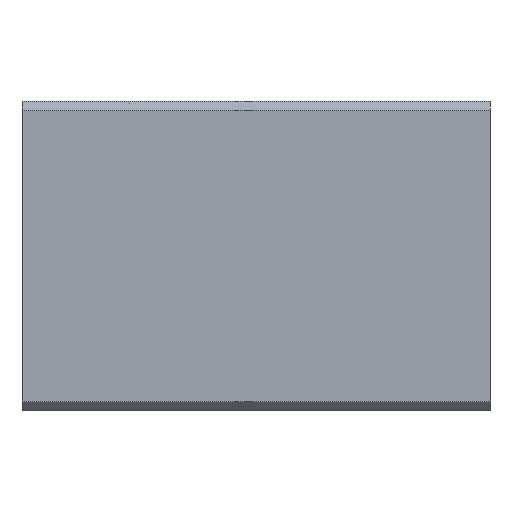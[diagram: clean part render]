
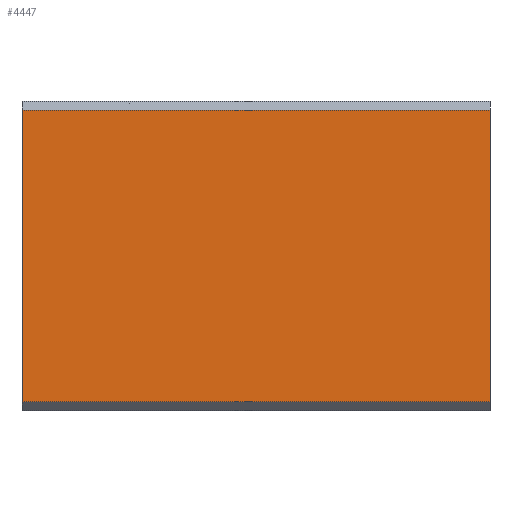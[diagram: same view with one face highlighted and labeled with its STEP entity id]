
A CAD part, front view. The second image highlights one B-rep face of the part: STEP entity #4447.
In plain terms, the highlighted planar face has unit normal (0, -1, 0).
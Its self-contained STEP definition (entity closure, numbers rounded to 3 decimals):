
#1444 = ORIENTED_EDGE ( 'NONE', *, *, #8270, .T. ) ;
#2482 = EDGE_CURVE ( 'NONE', #10974, #6404, #12743, .T. ) ;
#3276 = CARTESIAN_POINT ( 'NONE',  ( 0., -17.5, -16.5 ) ) ;
#3392 = FACE_OUTER_BOUND ( 'NONE', #6533, .T. ) ;
#3719 = DIRECTION ( 'NONE',  ( -1., 0., 0. ) ) ;
#3812 = VECTOR ( 'NONE', #4553, 1000. ) ;
#3844 = CARTESIAN_POINT ( 'NONE',  ( 53., -17.5, 16.5 ) ) ;
#4447 = ADVANCED_FACE ( 'NONE', ( #3392 ), #9435, .F. ) ;
#4553 = DIRECTION ( 'NONE',  ( 0., 0., -1. ) ) ;
#4637 = CARTESIAN_POINT ( 'NONE',  ( 53., -17.5, 17.5 ) ) ;
#4862 = EDGE_CURVE ( 'NONE', #10974, #8004, #5335, .T. ) ;
#4921 = VERTEX_POINT ( 'NONE', #3276 ) ;
#5335 = LINE ( 'NONE', #3844, #6278 ) ;
#5816 = CARTESIAN_POINT ( 'NONE',  ( 53., -17.5, 16.5 ) ) ;
#6278 = VECTOR ( 'NONE', #3719, 1000. ) ;
#6404 = VERTEX_POINT ( 'NONE', #9293 ) ;
#6533 = EDGE_LOOP ( 'NONE', ( #15271, #1444, #11543, #15261 ) ) ;
#8004 = VERTEX_POINT ( 'NONE', #14750 ) ;
#8270 = EDGE_CURVE ( 'NONE', #4921, #6404, #9549, .T. ) ;
#8362 = EDGE_CURVE ( 'NONE', #8004, #4921, #8491, .T. ) ;
#8491 = LINE ( 'NONE', #11869, #8519 ) ;
#8519 = VECTOR ( 'NONE', #12391, 1000. ) ;
#9183 = DIRECTION ( 'NONE',  ( 0., 0., 1. ) ) ;
#9229 = DIRECTION ( 'NONE',  ( 0., 1., 0. ) ) ;
#9242 = CARTESIAN_POINT ( 'NONE',  ( 53., -17.5, 17.5 ) ) ;
#9293 = CARTESIAN_POINT ( 'NONE',  ( 53., -17.5, -16.5 ) ) ;
#9435 = PLANE ( 'NONE',  #13336 ) ;
#9533 = VECTOR ( 'NONE', #12916, 1000. ) ;
#9549 = LINE ( 'NONE', #12941, #9533 ) ;
#10974 = VERTEX_POINT ( 'NONE', #5816 ) ;
#11543 = ORIENTED_EDGE ( 'NONE', *, *, #2482, .F. ) ;
#11869 = CARTESIAN_POINT ( 'NONE',  ( 0., -17.5, 17.5 ) ) ;
#12391 = DIRECTION ( 'NONE',  ( 0., 0., -1. ) ) ;
#12743 = LINE ( 'NONE', #4637, #3812 ) ;
#12916 = DIRECTION ( 'NONE',  ( 1., 0., 0. ) ) ;
#12941 = CARTESIAN_POINT ( 'NONE',  ( 53., -17.5, -16.5 ) ) ;
#13336 = AXIS2_PLACEMENT_3D ( 'NONE', #9242, #9229, #9183 ) ;
#14750 = CARTESIAN_POINT ( 'NONE',  ( 0., -17.5, 16.5 ) ) ;
#15261 = ORIENTED_EDGE ( 'NONE', *, *, #4862, .T. ) ;
#15271 = ORIENTED_EDGE ( 'NONE', *, *, #8362, .T. ) ;
